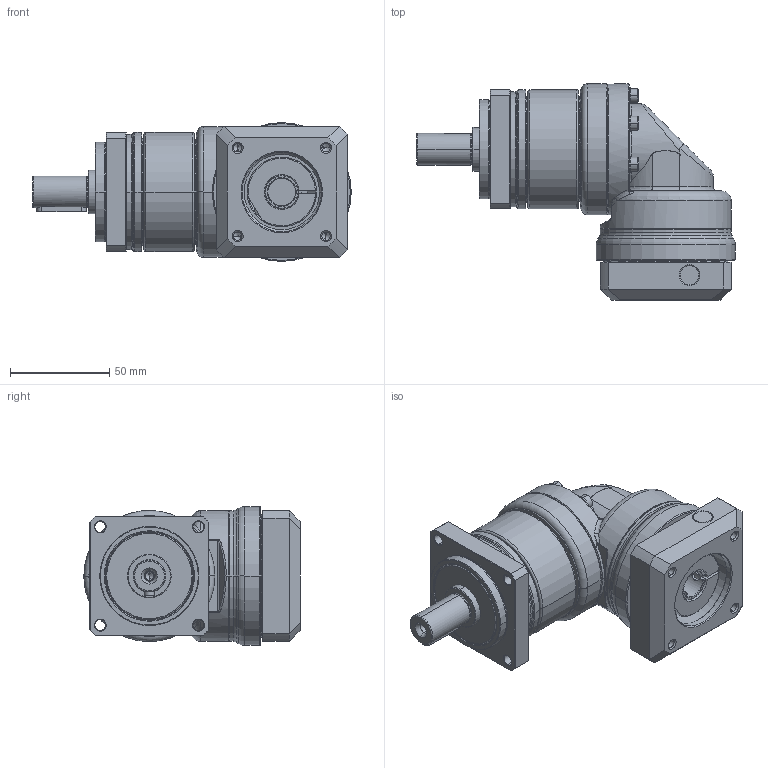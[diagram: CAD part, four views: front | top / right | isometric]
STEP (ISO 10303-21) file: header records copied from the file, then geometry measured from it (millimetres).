
FILE_DESCRIPTION((''),'2;1');
FILE_NAME('PA2R-060_1ST_14-P0411300101_ASM','2016-05-12T',('d01943'),(''),'PRO/ENGINEER BY PARAMETRIC TECHNOLOGY CORPORATION, 2008410','PRO/ENGINEER BY PARAMETRIC TECHNOLOGY CORPORATION, 2008410','');
FILE_SCHEMA(('CONFIG_CONTROL_DESIGN'));
Length unit declared in the file: millimetre
Products named in the file (12): P1327210001; P0250200001; P0350200001; P1349200001; P1017200001; P0713202001; P0503300005; P1350200201; P0411300101; P1702300001; 2111B104020; PA2R-060_1ST_14-P0411300101_ASM
Assembly tree (16 placements, depth 2):
  PA2R-060_1ST_14-P0411300101_ASM
    P1327210001
    P0250200001
    P0350200001
    P1349200001
    P1017200001
    P0713202001
    P0503300005
    P1350200201
    P0411300101
    P1702300001
    2111B104020  x6
Bounding box: 160.5 x 109 x 70 mm (x, y, z)
Volume: 342208 mm3; surface area: 110497.8 mm2
Topology: 16 solids, 16 shells, 816 faces, 1790 edges, 1033 vertices
Faces by surface type: cylinder 246, cone 236, plane 202, torus 100, bspline 32
Entity records: 23523 total; most frequent: CARTESIAN_POINT 8908, DIRECTION 3241, ORIENTED_EDGE 2828, EDGE_CURVE 1414, AXIS2_PLACEMENT_3D 1364, VERTEX_POINT 833, EDGE_LOOP 737, CIRCLE 717
